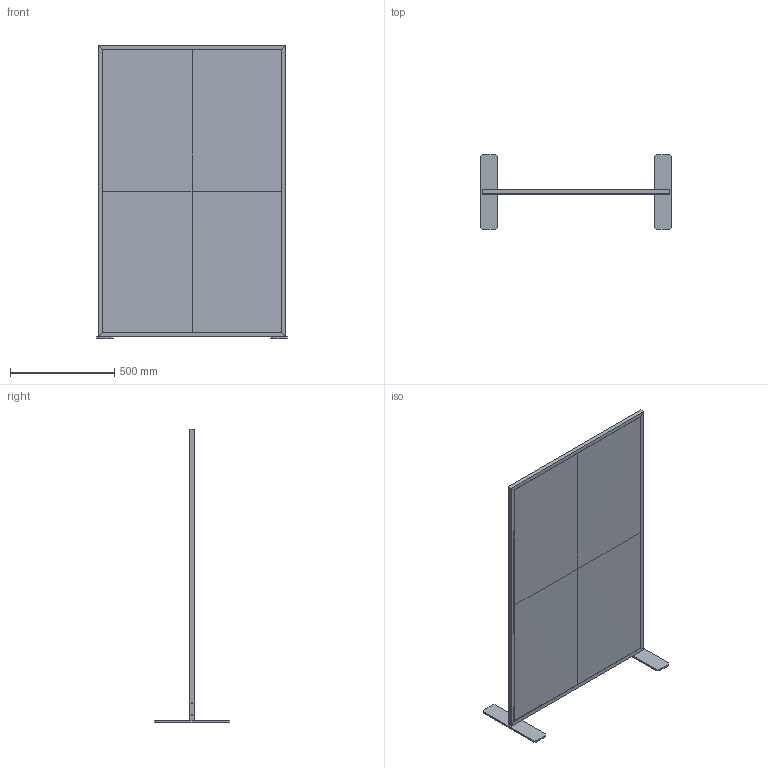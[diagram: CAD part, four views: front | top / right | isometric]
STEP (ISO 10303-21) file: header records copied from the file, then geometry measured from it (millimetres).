
FILE_DESCRIPTION(/* description */ (''),/* implementation_level */ '2;1');
FILE_NAME(/* name */ 'SL-WALL,M',/* time_stamp */ '2021-10-22T15:05:11+02:00',/* author */ (''),/* organization */ (''),/* preprocessor_version */ 'ST-DEVELOPER v16.5',/* originating_system */ '',/* authorisation */ '');
FILE_SCHEMA (('CONFIG_CONTROL_DESIGN'));
Length unit declared in the file: millimetre
Products named in the file (1): Document
Bounding box: 916 x 360 x 1408 mm (x, y, z)
Volume: 459426.5 mm3; surface area: 2875058.5 mm2
Topology: 2 solids, 9 shells, 84 faces, 203 edges, 134 vertices
Faces by surface type: plane 68, cylinder 8, bspline 8
Entity records: 2581 total; most frequent: CARTESIAN_POINT 1071, ORIENTED_EDGE 376, EDGE_CURVE 200, B_SPLINE_CURVE_WITH_KNOTS 178, VERTEX_POINT 130, EDGE_LOOP 92, DIRECTION 85, ADVANCED_FACE 84
